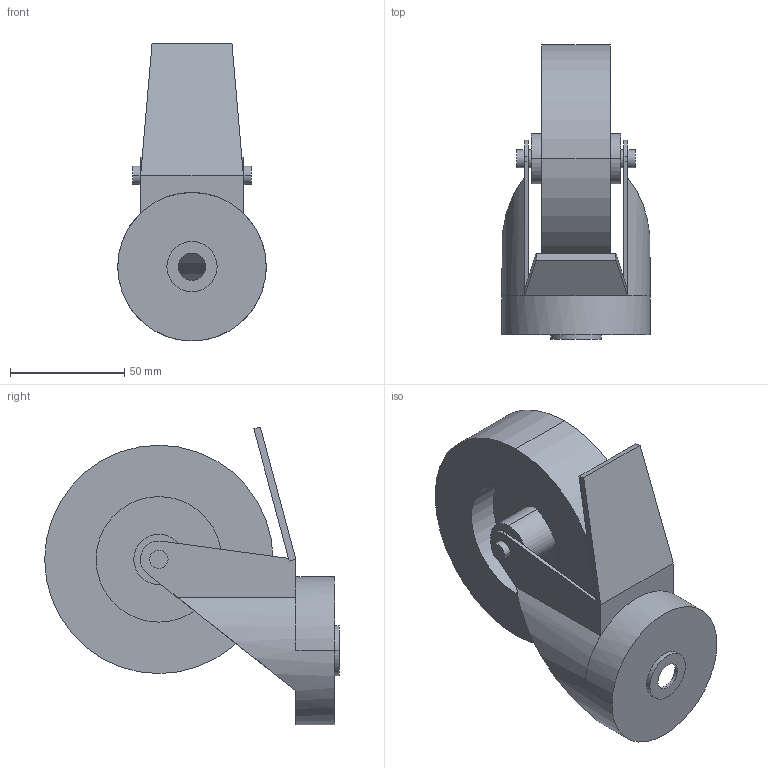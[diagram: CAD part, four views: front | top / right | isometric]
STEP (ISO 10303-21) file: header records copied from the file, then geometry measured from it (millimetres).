
FILE_DESCRIPTION((''),'2;1');
FILE_NAME('RUP100S_ASM','2002-12-27T',('Lipro doo'),('Lipro d.o.o.'),'PRO/ENGINEER BY PARAMETRIC TECHNOLOGY CORPORATION, 2001150','PRO/ENGINEER BY PARAMETRIC TECHNOLOGY CORPORATION, 2001150','');
FILE_SCHEMA(('CONFIG_CONTROL_DESIGN'));
Length unit declared in the file: millimetre
Products named in the file (3): RUP100_3; RUP100_1; RUP100S_ASM
Assembly tree (2 placements, depth 2):
  RUP100S_ASM
    RUP100_3
    RUP100_1
Bounding box: 65 x 129 x 130.46 mm (x, y, z)
Volume: 210693 mm3; surface area: 62309.9 mm2
Topology: 2 solids, 2 shells, 63 faces, 148 edges, 97 vertices
Faces by surface type: plane 33, cylinder 30
Entity records: 1952 total; most frequent: CARTESIAN_POINT 347, DIRECTION 341, ORIENTED_EDGE 296, EDGE_CURVE 148, AXIS2_PLACEMENT_3D 131, VERTEX_POINT 97, VECTOR 79, LINE 79
